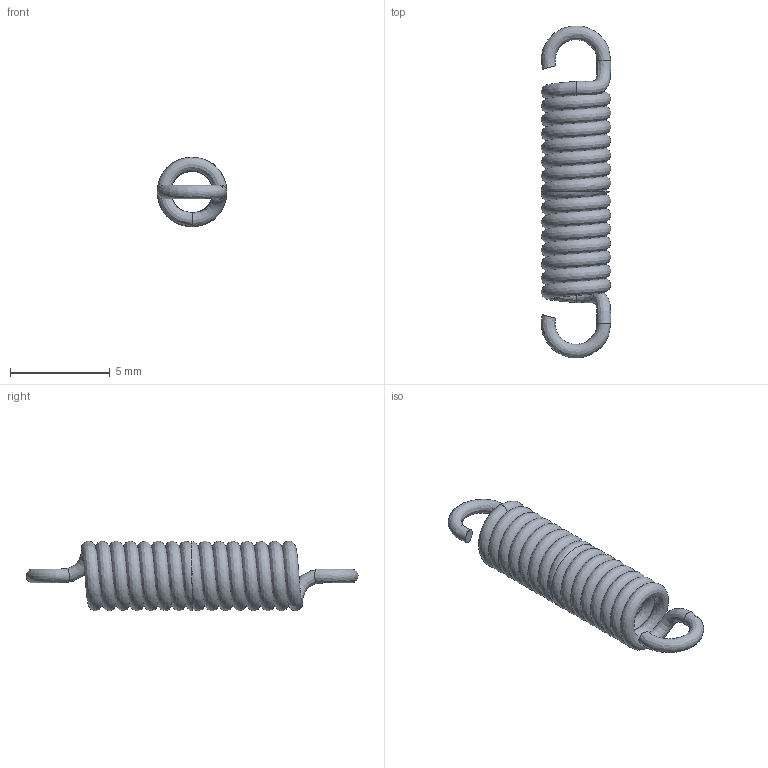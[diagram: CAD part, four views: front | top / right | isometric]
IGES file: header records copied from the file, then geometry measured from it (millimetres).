
Global section: file name: T20480; native system: Autodesk Inventor 2026; preprocessor: unknown; author: J. Iwanek; date: 20261005.100855; units: millimetre
Bounding box: 3.5 x 16.67 x 3.5 mm (x, y, z)
Volume: 56.3 mm3; surface area: 323.3 mm2
Topology: 1 solids, 1 shells, 10 faces, 36 edges, 24 vertices
Faces by surface type: bspline 10
